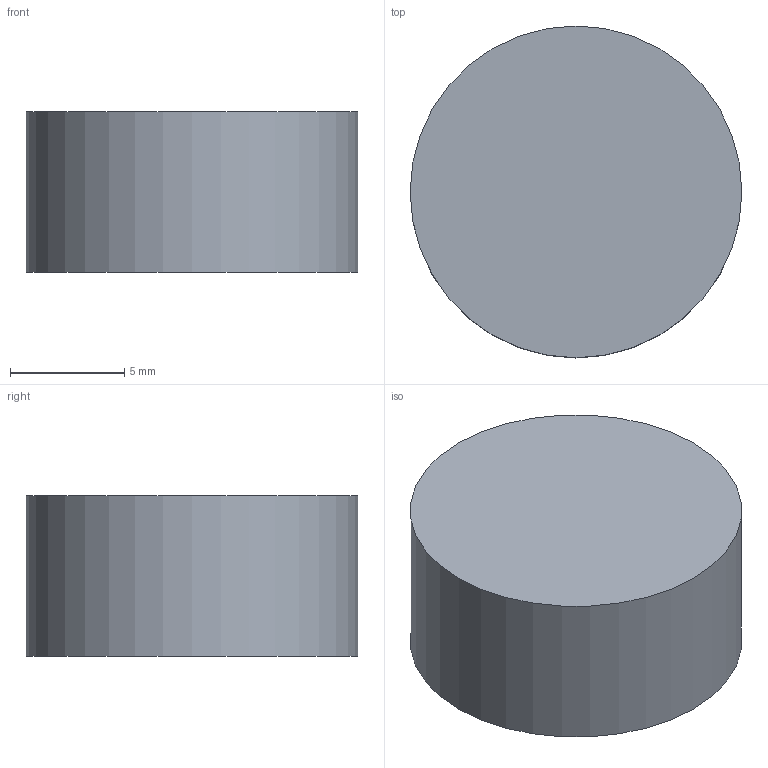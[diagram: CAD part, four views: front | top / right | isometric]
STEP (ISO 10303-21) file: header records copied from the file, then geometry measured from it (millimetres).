
FILE_DESCRIPTION(('Open CASCADE Model'),'2;1');
FILE_NAME('Open CASCADE Shape Model','2026-07-17T20:14:26',('Author'),( 'Open CASCADE'),'Open CASCADE STEP processor 7.7','Open CASCADE 7.7' ,'Unknown');
FILE_SCHEMA(('AUTOMOTIVE_DESIGN { 1 0 10303 214 1 1 1 1 }'));
Length unit declared in the file: millimetre
Products named in the file (1): Open CASCADE STEP translator 7.7 4
Bounding box: 14.5 x 14.5 x 7 mm (x, y, z)
Volume: 1136.9 mm3; surface area: 685.4 mm2
Topology: 1 solids, 1 shells, 5 faces, 6 edges, 4 vertices
Faces by surface type: plane 3, cylinder 2
Full cylindrical faces by diameter (mm): 2.1 x1, 14.5 x1
Entity records: 192 total; most frequent: DIRECTION 34, CARTESIAN_POINT 28, ORIENTED_EDGE 12, PCURVE 12, DEFINITIONAL_REPRESENTATION 12, AXIS2_PLACEMENT_3D 10, LINE 10, VECTOR 10
